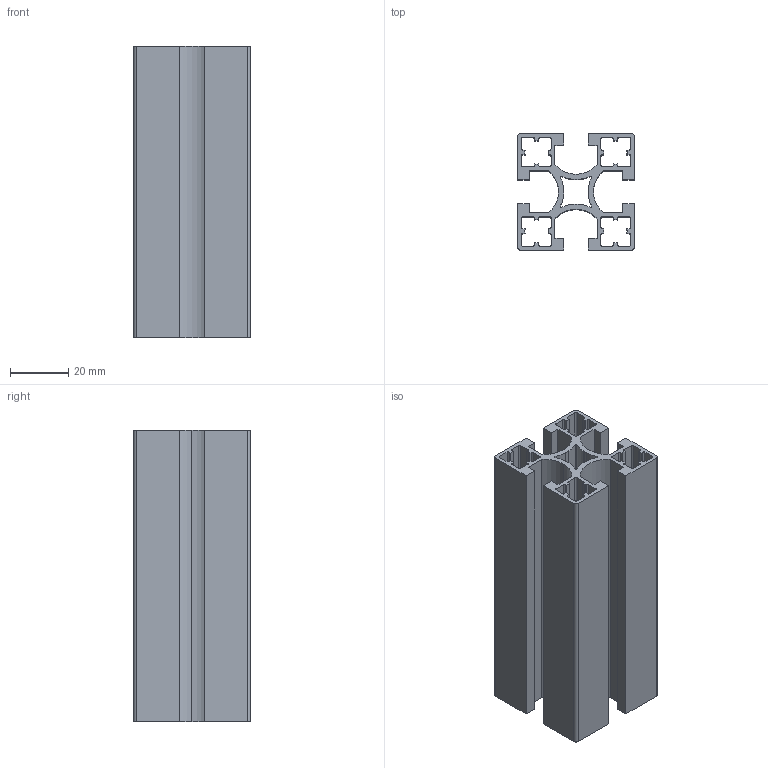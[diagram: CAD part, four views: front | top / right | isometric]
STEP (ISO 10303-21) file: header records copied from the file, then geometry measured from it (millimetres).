
FILE_DESCRIPTION (( 'STEP AP203' ), '1' );
FILE_NAME ('WS4040A-8.STEP', '2024-02-19T03:26:30', ( '' ), ( '' ), 'SwSTEP 2.0', 'SolidWorks 2022', '' );
FILE_SCHEMA (( 'CONFIG_CONTROL_DESIGN' ));
Length unit declared in the file: millimetre
Products named in the file (1): WS4040A-8
Bounding box: 40 x 40 x 100 mm (x, y, z)
Volume: 47706.1 mm3; surface area: 54246.5 mm2
Topology: 1 solids, 1 shells, 194 faces, 576 edges, 384 vertices
Faces by surface type: plane 98, cylinder 96
Entity records: 6649 total; most frequent: DIRECTION 1158, CARTESIAN_POINT 1155, ORIENTED_EDGE 1152, EDGE_CURVE 576, AXIS2_PLACEMENT_3D 387, VECTOR 384, LINE 384, VERTEX_POINT 384
